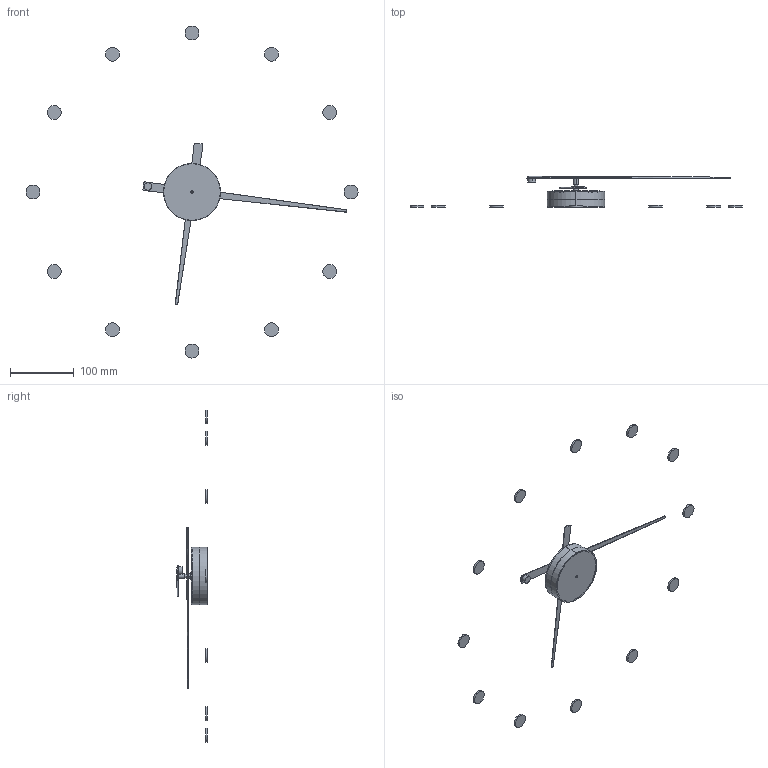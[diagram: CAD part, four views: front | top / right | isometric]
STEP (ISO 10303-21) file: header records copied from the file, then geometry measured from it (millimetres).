
FILE_DESCRIPTION (( 'STEP AP214' ), '1' );
FILE_NAME ('OJ_50cm.STEP', '2016-09-23T09:29:46', ( 'Usuario' ), ( '' ), 'SwSTEP 2.0', 'SolidWorks 2016', '' );
FILE_SCHEMA (( 'AUTOMOTIVE_DESIGN' ));
Length unit declared in the file: millimetre
Products named in the file (8): Señal_horaria_OJ; Mecanismo; Aguja_horaria_OJ; Aguja_minutera_OJ; Tapa_inferior_caja_OJ; Arandela_caja_OJ; Tapa_superior_caja_OJ; OJ_50cm
Assembly tree (18 placements, depth 2):
  OJ_50cm
    Arandela_caja_OJ
    Tapa_inferior_caja_OJ
    Tapa_superior_caja_OJ
    Mecanismo
    Aguja_minutera_OJ
    Señal_horaria_OJ  x12
    Aguja_horaria_OJ
Bounding box: 522 x 48.57 x 522 mm (x, y, z)
Volume: 104014.8 mm3; surface area: 79473.2 mm2
Topology: 18 solids, 18 shells, 169 faces, 342 edges, 219 vertices
Faces by surface type: cylinder 72, plane 60, torus 14, bspline 14, cone 9
Entity records: 4998 total; most frequent: CARTESIAN_POINT 1801, DIRECTION 629, ORIENTED_EDGE 552, EDGE_CURVE 276, AXIS2_PLACEMENT_3D 267, VERTEX_POINT 175, EDGE_LOOP 143, CIRCLE 135
